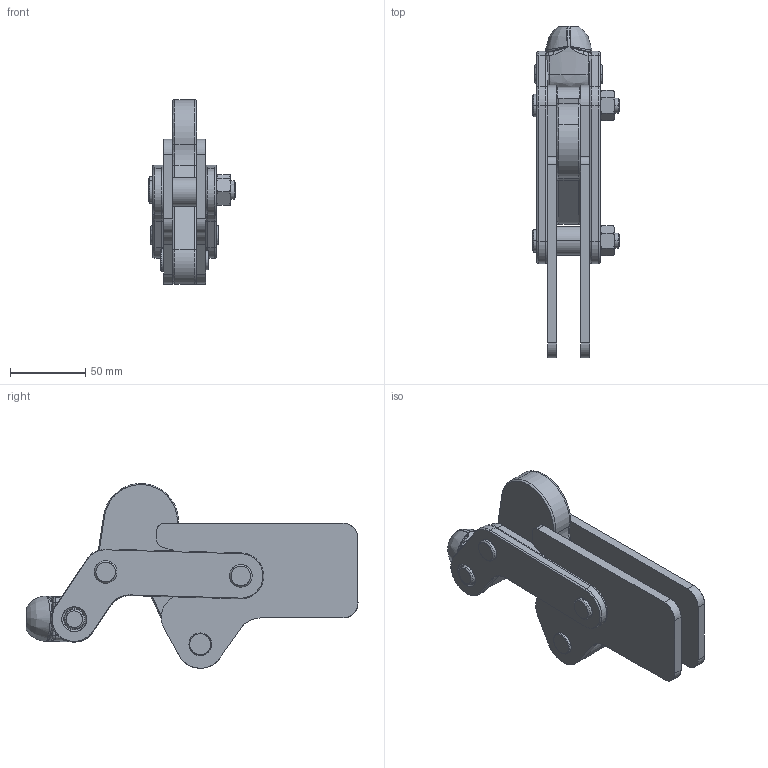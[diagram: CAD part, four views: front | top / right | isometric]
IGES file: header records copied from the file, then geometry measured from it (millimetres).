
Start section: SolidWorks IGES file using analytic representation for surfaces
Global section: file name: D:\GH Files\GH-SW-FILES\GH7\702K\GH-701K.IGS; native system: SolidWorks 2007; preprocessor: SolidWorks 2007; author: Administrator; date: 061026.114712; units: millimetre
Bounding box: 58 x 220.99 x 122.94 mm (x, y, z)
Surface area: 112540.2 mm2 (no closed solid volume)
Topology: 0 solids, 0 shells, 1442 faces, 11516 edges, 11512 vertices
Faces by surface type: bspline 793, revolution 649
